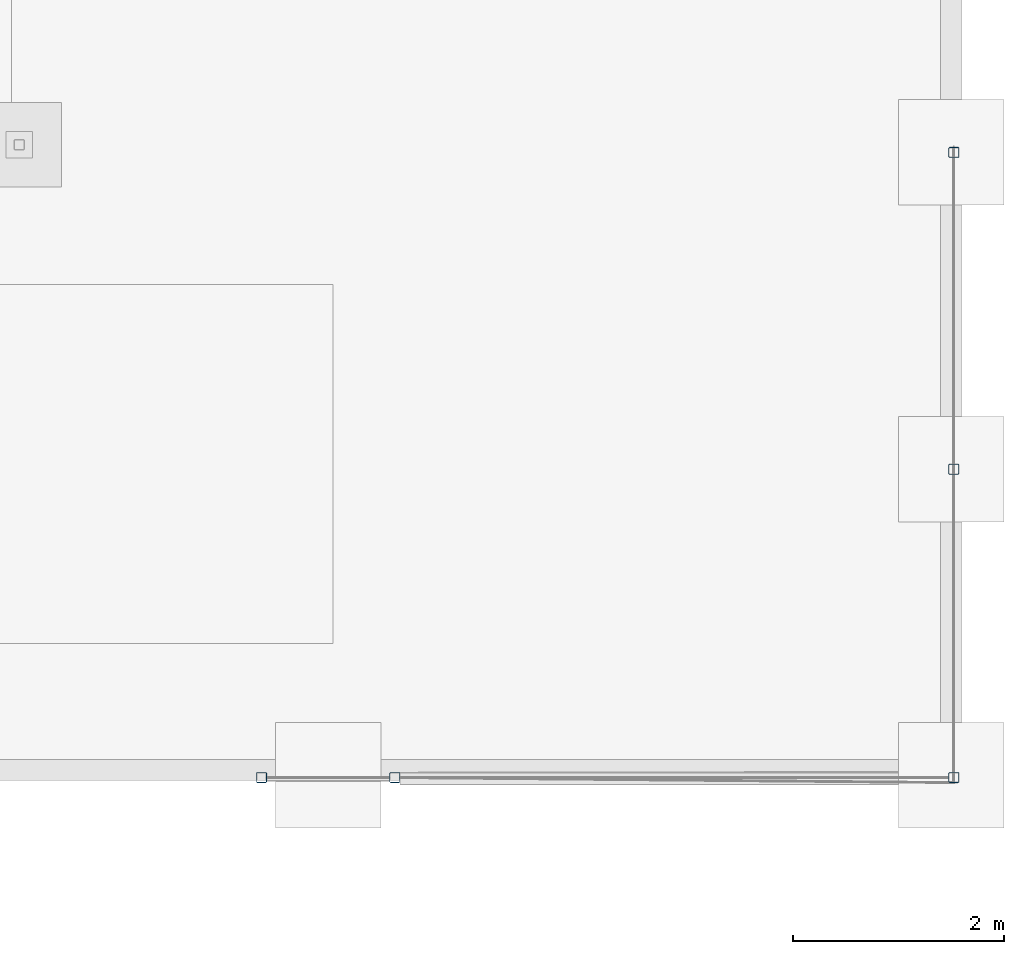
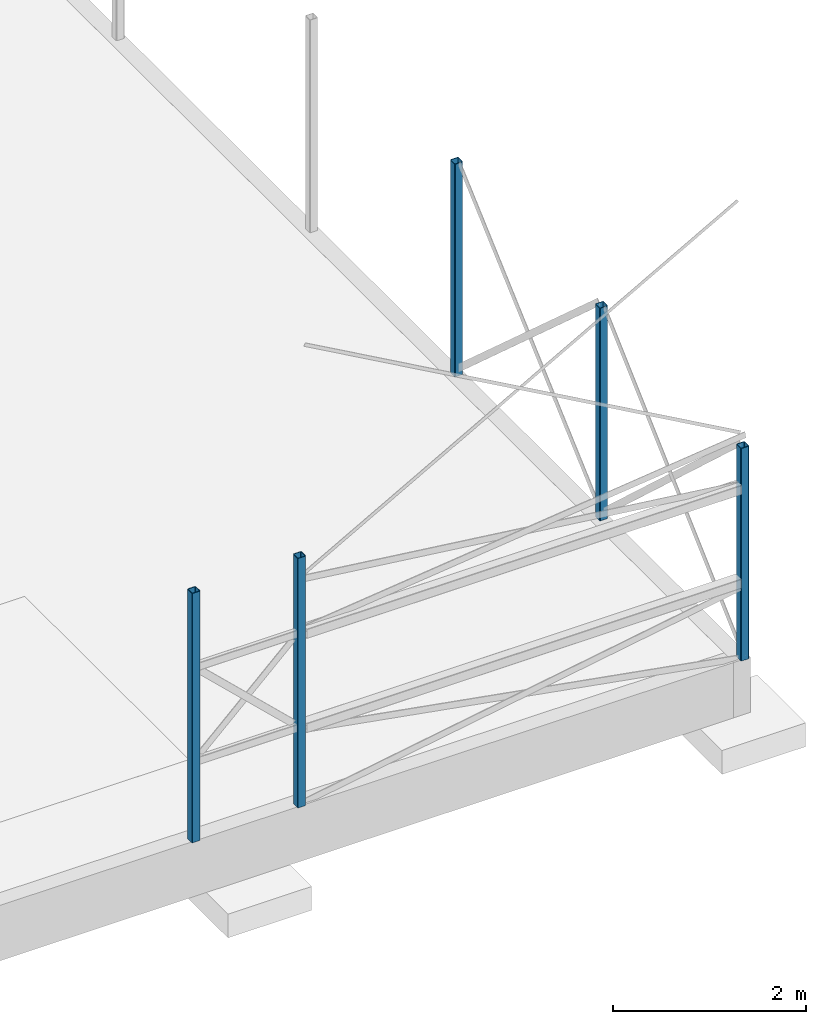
# One storey, part 3 of 18: 5 columns.
"""IFC2X3 building model written with IfcOpenShell, lengths in millimetres."""

from ifc_helpers import new_model, entity, si_unit, converted_unit, derived_unit, direction, frame, frame_2d, origin, place, context, subcontext, project, spatial, polyline, circle_curve, parameter, trimmed, segment, composite_curve, outline, extrude, source, transform, mapped, material, type_object, type_shapes, element, save


model = new_model("IFC2X3")

# Units and contexts
model_context = context("Model", 3, precision=0.01, world=origin(), true_north=direction((6.12303176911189e-17, 1.0)))
body_context = subcontext(model_context, "Body", "Model", "MODEL_VIEW")
ifc_project = project(units=[si_unit("LENGTHUNIT", "METRE", prefix="MILLI"), si_unit("AREAUNIT", "SQUARE_METRE"), si_unit("VOLUMEUNIT", "CUBIC_METRE"), converted_unit("PLANEANGLEUNIT", "DEGREE", entity("IfcRatioMeasure", 0.0174532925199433), si_unit("PLANEANGLEUNIT", "RADIAN"), dimensions=[0, 0, 0, 0, 0, 0, 0]), si_unit("MASSUNIT", "GRAM", prefix="KILO"), derived_unit("MASSDENSITYUNIT", [(si_unit("MASSUNIT", "GRAM", prefix="KILO"), 1), (si_unit("LENGTHUNIT", "METRE"), -3)]), si_unit("TIMEUNIT", "SECOND"), si_unit("FREQUENCYUNIT", "HERTZ"), si_unit("THERMODYNAMICTEMPERATUREUNIT", "DEGREE_CELSIUS"), derived_unit("THERMALTRANSMITTANCEUNIT", [(si_unit("MASSUNIT", "GRAM", prefix="KILO"), 1), (si_unit("THERMODYNAMICTEMPERATUREUNIT", "KELVIN"), -1), (si_unit("TIMEUNIT", "SECOND"), -3)]), derived_unit("VOLUMETRICFLOWRATEUNIT", [(si_unit("LENGTHUNIT", "METRE"), 3), (si_unit("TIMEUNIT", "SECOND"), -1)]), si_unit("ELECTRICCURRENTUNIT", "AMPERE"), si_unit("ELECTRICVOLTAGEUNIT", "VOLT"), si_unit("POWERUNIT", "WATT"), si_unit("FORCEUNIT", "NEWTON", prefix="KILO"), si_unit("ILLUMINANCEUNIT", "LUX"), si_unit("LUMINOUSFLUXUNIT", "LUMEN"), si_unit("LUMINOUSINTENSITYUNIT", "CANDELA"), derived_unit("USERDEFINED", [(si_unit("MASSUNIT", "GRAM", prefix="KILO"), -1), (si_unit("LENGTHUNIT", "METRE"), -2), (si_unit("TIMEUNIT", "SECOND"), 3), (si_unit("LUMINOUSFLUXUNIT", "LUMEN"), 1)]), derived_unit("LINEARVELOCITYUNIT", [(si_unit("LENGTHUNIT", "METRE"), 1), (si_unit("TIMEUNIT", "SECOND"), -1)]), si_unit("PRESSUREUNIT", "PASCAL"), derived_unit("USERDEFINED", [(si_unit("LENGTHUNIT", "METRE"), -2), (si_unit("MASSUNIT", "GRAM", prefix="KILO"), 1), (si_unit("TIMEUNIT", "SECOND"), -2)])], contexts=[model_context])

# Site, building, storey
site_placement = place(None, frame((0.0, 0.0, 101000.0)))
site = spatial("IfcSite", under=ifc_project, at=site_placement, Name="Default", CompositionType="ELEMENT")
building_placement = place(site_placement, origin())
building = spatial("IfcBuilding", under=site, at=building_placement, CompositionType="ELEMENT")
storey_placement = place(building_placement, origin())
storey = spatial("IfcBuildingStorey", under=building, at=storey_placement, Name="01", CompositionType="ELEMENT", Elevation=8.9295595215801e-10)

# Columns
ifc_material = material(Name="S355")
column_type_1 = type_object("IfcColumnType", Name="HUP 100x100x6.3", PredefinedType="COLUMN", material=ifc_material)
shared_shape_1 = source(origin(), body_context, "Body", "SweptSolid", [
    extrude(outline(composite_curve([segment(polyline([(-37.4000000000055, -50.0), (37.4000000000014, -50.0)]), True, "CONTINUOUS"), segment(trimmed(circle_curve(frame_2d((37.4000000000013, -37.3999999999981), x_axis=(-1.0, 0.0)), 12.6000000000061), [parameter(90.0000000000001)], [parameter(180.0)], True, "PARAMETER"), True, "CONTINUOUS"), segment(polyline([(50.0, -37.3999999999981), (50.0, 37.4000000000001)]), True, "CONTINUOUS"), segment(trimmed(circle_curve(frame_2d((37.4000000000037, 37.4000000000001), x_axis=(-1.0, 0.0)), 12.6000000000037), [parameter(180.0)], [parameter(270.0)], True, "PARAMETER"), True, "CONTINUOUS"), segment(polyline([(37.4000000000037, 50.0), (-37.4000000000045, 50.0)]), True, "CONTINUOUS"), segment(trimmed(circle_curve(frame_2d((-37.4000000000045, 37.4000000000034), x_axis=(-1.0, 0.0)), 12.6000000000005), [parameter(270.0)], [parameter(360.0)], True, "PARAMETER"), True, "CONTINUOUS"), segment(polyline([(-50.0, 37.4000000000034), (-50.0, -37.4000000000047)]), True, "CONTINUOUS"), segment(trimmed(circle_curve(frame_2d((-37.4000000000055, -37.4000000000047), x_axis=(-1.0, 0.0)), 12.5999999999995), [parameter(360.0)], [parameter(89.9999999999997)], True, "PARAMETER"), True, "CONTINUOUS")], self_intersect=False), holes=[composite_curve([segment(trimmed(circle_curve(frame_2d((-37.4000000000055, -37.4000000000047), x_axis=(-1.0, 0.0)), 6.2999999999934), [parameter(0.0)], [parameter(90.0)], True, "PARAMETER"), False, "CONTINUOUS"), segment(polyline([(-43.6999999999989, -37.4000000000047), (-43.6999999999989, 37.4000000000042)]), True, "CONTINUOUS"), segment(trimmed(circle_curve(frame_2d((-37.4000000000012, 37.4000000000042), x_axis=(-1.0, 0.0)), 6.29999999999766), [parameter(270.0)], [parameter(360.0)], True, "PARAMETER"), False, "CONTINUOUS"), segment(polyline([(-37.4000000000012, 43.7000000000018), (37.3999999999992, 43.7000000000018)]), True, "CONTINUOUS"), segment(trimmed(circle_curve(frame_2d((37.3999999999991, 37.3999999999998), x_axis=(-1.0, 0.0)), 6.30000000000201), [parameter(180.0)], [parameter(270.0)], True, "PARAMETER"), False, "CONTINUOUS"), segment(polyline([(43.7000000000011, 37.3999999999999), (43.7000000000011, -37.3999999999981)]), True, "CONTINUOUS"), segment(trimmed(circle_curve(frame_2d((37.4000000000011, -37.3999999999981), x_axis=(-1.0, 0.0)), 6.30000000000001), [parameter(90.0000000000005)], [parameter(180.0)], True, "PARAMETER"), False, "CONTINUOUS"), segment(polyline([(37.4000000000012, -43.6999999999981), (-37.4000000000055, -43.6999999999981)]), True, "CONTINUOUS")], self_intersect=False)]), frame((0.0, 0.0, 0.0), z_axis=(0.0, 0.0, 1.0), x_axis=(-1.0, 0.0, 0.0)), (0.0, 0.0, 1.0), 2684.99999999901),
])
type_shapes(column_type_1, [shared_shape_1])
for number, where, name in (
    (1, (23111.2644969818, 29417.9507529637, 0.0), "Søyle HUP:HUP 100x100x6.3"),
    (2, (23111.2644969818, 26417.9507529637, 0.0), "Søyle HUP:HUP 100x100x6.3"),
    (3, (23111.2644969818, 23497.9507529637, 0.0), "Søyle HUP:HUP 100x100x6.3"),
):
    element("IfcColumn", number, at=place(storey_placement, frame(where)), inside=storey, type_object=column_type_1, material=ifc_material, Name=name, ObjectType="HUP 100x100x6.3", context=body_context, shape_type="MappedRepresentation", body=[
        mapped(shared_shape_1, transform((0.0, 0.0, 0.0), scale=1.0)),
    ])
column_type_2 = type_object("IfcColumnType", Name="HUP 100x100x6.3", PredefinedType="COLUMN", material=ifc_material)
shared_shape_2 = source(origin(), body_context, "Body", "SweptSolid", [
    extrude(outline(composite_curve([segment(polyline([(-37.4000000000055, -50.0), (37.4000000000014, -50.0)]), True, "CONTINUOUS"), segment(trimmed(circle_curve(frame_2d((37.4000000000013, -37.3999999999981), x_axis=(-1.0, 0.0)), 12.6000000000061), [parameter(90.0000000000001)], [parameter(180.0)], True, "PARAMETER"), True, "CONTINUOUS"), segment(polyline([(50.0, -37.3999999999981), (50.0, 37.4000000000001)]), True, "CONTINUOUS"), segment(trimmed(circle_curve(frame_2d((37.4000000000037, 37.4000000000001), x_axis=(-1.0, 0.0)), 12.6000000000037), [parameter(180.0)], [parameter(270.0)], True, "PARAMETER"), True, "CONTINUOUS"), segment(polyline([(37.4000000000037, 50.0), (-37.4000000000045, 50.0)]), True, "CONTINUOUS"), segment(trimmed(circle_curve(frame_2d((-37.4000000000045, 37.4000000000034), x_axis=(-1.0, 0.0)), 12.6000000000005), [parameter(270.0)], [parameter(360.0)], True, "PARAMETER"), True, "CONTINUOUS"), segment(polyline([(-50.0, 37.4000000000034), (-50.0, -37.4000000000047)]), True, "CONTINUOUS"), segment(trimmed(circle_curve(frame_2d((-37.4000000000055, -37.4000000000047), x_axis=(-1.0, 0.0)), 12.5999999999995), [parameter(360.0)], [parameter(89.9999999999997)], True, "PARAMETER"), True, "CONTINUOUS")], self_intersect=False), holes=[composite_curve([segment(trimmed(circle_curve(frame_2d((-37.4000000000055, -37.4000000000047), x_axis=(-1.0, 0.0)), 6.2999999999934), [parameter(0.0)], [parameter(90.0)], True, "PARAMETER"), False, "CONTINUOUS"), segment(polyline([(-43.6999999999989, -37.4000000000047), (-43.6999999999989, 37.4000000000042)]), True, "CONTINUOUS"), segment(trimmed(circle_curve(frame_2d((-37.4000000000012, 37.4000000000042), x_axis=(-1.0, 0.0)), 6.29999999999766), [parameter(270.0)], [parameter(360.0)], True, "PARAMETER"), False, "CONTINUOUS"), segment(polyline([(-37.4000000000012, 43.7000000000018), (37.3999999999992, 43.7000000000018)]), True, "CONTINUOUS"), segment(trimmed(circle_curve(frame_2d((37.3999999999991, 37.3999999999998), x_axis=(-1.0, 0.0)), 6.30000000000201), [parameter(180.0)], [parameter(270.0)], True, "PARAMETER"), False, "CONTINUOUS"), segment(polyline([(43.7000000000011, 37.3999999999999), (43.7000000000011, -37.3999999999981)]), True, "CONTINUOUS"), segment(trimmed(circle_curve(frame_2d((37.4000000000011, -37.3999999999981), x_axis=(-1.0, 0.0)), 6.30000000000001), [parameter(90.0000000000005)], [parameter(180.0)], True, "PARAMETER"), False, "CONTINUOUS"), segment(polyline([(37.4000000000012, -43.6999999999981), (-37.4000000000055, -43.6999999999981)]), True, "CONTINUOUS")], self_intersect=False)]), frame((0.0, 0.0, 0.0), z_axis=(0.0, 0.0, 1.0), x_axis=(-1.0, 0.0, 0.0)), (0.0, 0.0, 1.0), 3149.99999999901),
])
type_shapes(column_type_2, [shared_shape_2])
for number, where, name in (
    (4, (16555.2902080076, 23497.9507529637, 0.0), "Søyle HUP:HUP 100x100x6.3"),
    (5, (17817.2389636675, 23497.9507529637, 0.0), "Søyle HUP:HUP 100x100x6.3"),
):
    element("IfcColumn", number, at=place(storey_placement, frame(where)), inside=storey, type_object=column_type_2, material=ifc_material, Name=name, ObjectType="HUP 100x100x6.3", context=body_context, shape_type="MappedRepresentation", body=[
        mapped(shared_shape_2, transform((0.0, 0.0, 0.0), scale=1.0)),
    ])

save(model, "model.ifc")
